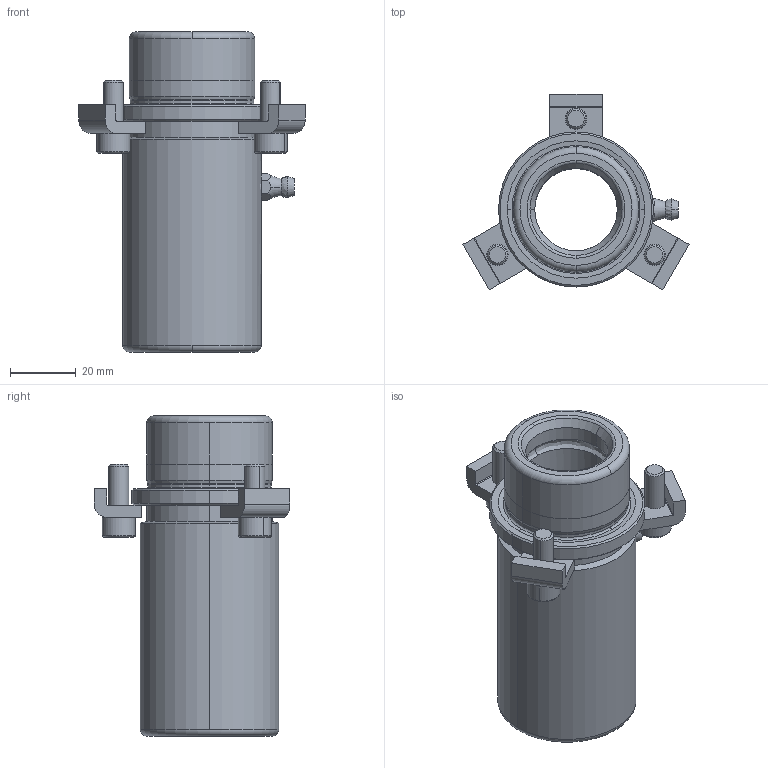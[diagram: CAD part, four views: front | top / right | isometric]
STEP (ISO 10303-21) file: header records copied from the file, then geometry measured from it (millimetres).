
FILE_DESCRIPTION((''),'2;1');
FILE_NAME('B10_025_075.stp','2008-11-04T16:53:32',(''),(''),'Mechanical Desktop 2009','Mechanical Desktop 2009',', , ');
FILE_SCHEMA(('CONFIG_CONTROL_DESIGN'));
Length unit declared in the file: millimetre
Products named in the file (2): Product; blmdl1
Assembly tree (1 placements, depth 2):
  Product
    blmdl1
Bounding box: 68.57 x 59.38 x 97 mm (x, y, z)
Volume: 86016.6 mm3; surface area: 27849.5 mm2
Topology: 8 solids, 8 shells, 170 faces, 427 edges, 280 vertices
Faces by surface type: plane 68, cylinder 48, cone 22, bspline 16, torus 16
Entity records: 6342 total; most frequent: CARTESIAN_POINT 2052, DIRECTION 933, ORIENTED_EDGE 846, EDGE_CURVE 423, AXIS2_PLACEMENT_3D 371, VERTEX_POINT 278, CIRCLE 215, VECTOR 191
